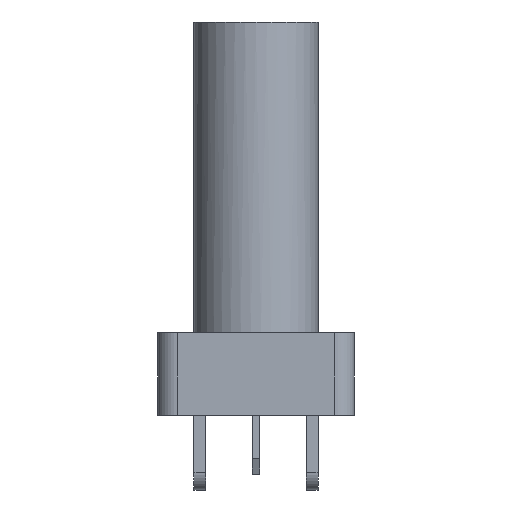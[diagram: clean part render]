
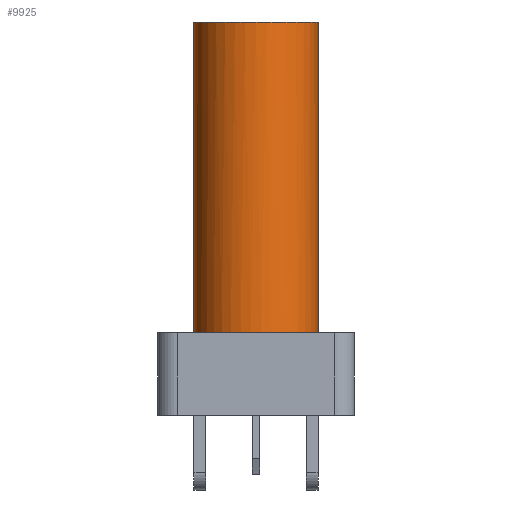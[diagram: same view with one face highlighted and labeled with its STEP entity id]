
A CAD part, left-side view. The second image highlights one B-rep face of the part: STEP entity #9925.
In plain terms, the highlighted cylindrical face has radius 1.58 mm (diameter 3.16 mm), a partial arc.
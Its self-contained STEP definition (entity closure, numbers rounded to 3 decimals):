
#131 = CARTESIAN_POINT ( 'NONE',  ( -2.89, 0., -2.9 ) ) ;
#310 = DIRECTION ( 'NONE',  ( -1., 0., 0. ) ) ;
#429 = LINE ( 'NONE', #3691, #2291 ) ;
#472 = AXIS2_PLACEMENT_3D ( 'NONE', #131, #4801, #2499 ) ;
#1188 = ORIENTED_EDGE ( 'NONE', *, *, #7286, .F. ) ;
#1246 = CARTESIAN_POINT ( 'NONE',  ( -3.856, -1.25, -2.9 ) ) ;
#1247 = LINE ( 'NONE', #4086, #9909 ) ;
#1261 = VERTEX_POINT ( 'NONE', #7841 ) ;
#1460 = CIRCLE ( 'NONE', #8878, 1.58 ) ;
#1509 = CARTESIAN_POINT ( 'NONE',  ( -2.89, -1.58, 5. ) ) ;
#1784 = DIRECTION ( 'NONE',  ( -1., 0., 0. ) ) ;
#1790 = DIRECTION ( 'NONE',  ( 1., 0., 0. ) ) ;
#1889 = DIRECTION ( 'NONE',  ( 1., 0., 0. ) ) ;
#1896 = CARTESIAN_POINT ( 'NONE',  ( -2.89, 0., 5. ) ) ;
#2291 = VECTOR ( 'NONE', #5312, 1000. ) ;
#2499 = DIRECTION ( 'NONE',  ( 1., 0., 0. ) ) ;
#2595 = DIRECTION ( 'NONE',  ( 0., 0., 1. ) ) ;
#2735 = EDGE_CURVE ( 'NONE', #4602, #9135, #4082, .T. ) ;
#3015 = ORIENTED_EDGE ( 'NONE', *, *, #9432, .T. ) ;
#3128 = CARTESIAN_POINT ( 'NONE',  ( -2.89, 1.58, -2.9 ) ) ;
#3355 = CIRCLE ( 'NONE', #4372, 1.58 ) ;
#3476 = ORIENTED_EDGE ( 'NONE', *, *, #9530, .F. ) ;
#3691 = CARTESIAN_POINT ( 'NONE',  ( -2.89, 1.58, -2.9 ) ) ;
#3962 = FACE_OUTER_BOUND ( 'NONE', #6503, .T. ) ;
#4082 = CIRCLE ( 'NONE', #4277, 1.58 ) ;
#4086 = CARTESIAN_POINT ( 'NONE',  ( -2.89, -1.58, -2.9 ) ) ;
#4267 = VERTEX_POINT ( 'NONE', #1509 ) ;
#4277 = AXIS2_PLACEMENT_3D ( 'NONE', #8924, #9691, #1790 ) ;
#4281 = ORIENTED_EDGE ( 'NONE', *, *, #2735, .T. ) ;
#4372 = AXIS2_PLACEMENT_3D ( 'NONE', #1896, #2595, #310 ) ;
#4399 = VERTEX_POINT ( 'NONE', #1246 ) ;
#4602 = VERTEX_POINT ( 'NONE', #3128 ) ;
#4801 = DIRECTION ( 'NONE',  ( 0., 0., 1. ) ) ;
#4811 = CYLINDRICAL_SURFACE ( 'NONE', #7222, 1.58 ) ;
#5154 = CARTESIAN_POINT ( 'NONE',  ( -2.89, 0., -2.9 ) ) ;
#5217 = ORIENTED_EDGE ( 'NONE', *, *, #6456, .F. ) ;
#5312 = DIRECTION ( 'NONE',  ( 0., 0., 1. ) ) ;
#5370 = VERTEX_POINT ( 'NONE', #7348 ) ;
#6057 = CARTESIAN_POINT ( 'NONE',  ( -3.856, 1.25, -2.9 ) ) ;
#6283 = EDGE_CURVE ( 'NONE', #4399, #5370, #8921, .T. ) ;
#6456 = EDGE_CURVE ( 'NONE', #4399, #9135, #1460, .T. ) ;
#6503 = EDGE_LOOP ( 'NONE', ( #3015, #3476, #1188, #4281, #5217, #9570 ) ) ;
#6577 = CARTESIAN_POINT ( 'NONE',  ( -2.89, 0., -2.9 ) ) ;
#7222 = AXIS2_PLACEMENT_3D ( 'NONE', #5154, #7542, #1889 ) ;
#7286 = EDGE_CURVE ( 'NONE', #4602, #1261, #429, .T. ) ;
#7348 = CARTESIAN_POINT ( 'NONE',  ( -2.89, -1.58, -2.9 ) ) ;
#7542 = DIRECTION ( 'NONE',  ( 0., 0., 1. ) ) ;
#7841 = CARTESIAN_POINT ( 'NONE',  ( -2.89, 1.58, 5. ) ) ;
#8878 = AXIS2_PLACEMENT_3D ( 'NONE', #6577, #8916, #1784 ) ;
#8916 = DIRECTION ( 'NONE',  ( 0., 0., -1. ) ) ;
#8921 = CIRCLE ( 'NONE', #472, 1.58 ) ;
#8924 = CARTESIAN_POINT ( 'NONE',  ( -2.89, 0., -2.9 ) ) ;
#9135 = VERTEX_POINT ( 'NONE', #6057 ) ;
#9432 = EDGE_CURVE ( 'NONE', #5370, #4267, #1247, .T. ) ;
#9530 = EDGE_CURVE ( 'NONE', #1261, #4267, #3355, .T. ) ;
#9570 = ORIENTED_EDGE ( 'NONE', *, *, #6283, .T. ) ;
#9646 = DIRECTION ( 'NONE',  ( 0., 0., 1. ) ) ;
#9691 = DIRECTION ( 'NONE',  ( 0., 0., 1. ) ) ;
#9909 = VECTOR ( 'NONE', #9646, 1000. ) ;
#9925 = ADVANCED_FACE ( 'NONE', ( #3962 ), #4811, .T. ) ;
